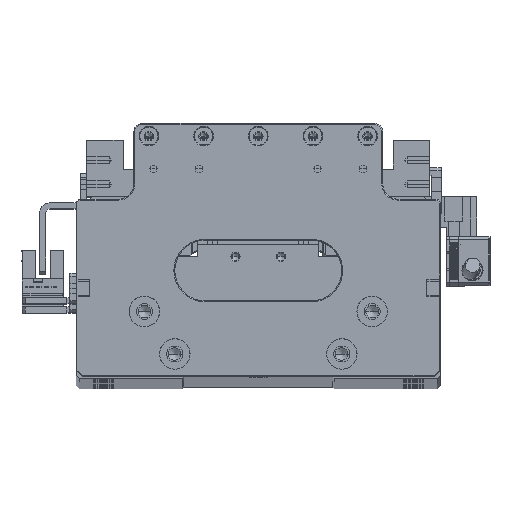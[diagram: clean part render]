
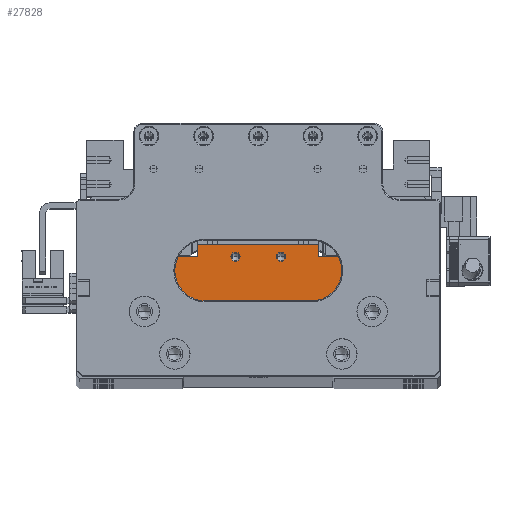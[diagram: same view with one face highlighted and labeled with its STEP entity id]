
A CAD part, top view. The second image highlights one B-rep face of the part: STEP entity #27828.
In plain terms, the highlighted planar face has unit normal (0, 0, 1).
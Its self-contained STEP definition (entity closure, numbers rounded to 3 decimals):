
#475 = LINE ( 'NONE', #105958, #49648 ) ;
#3552 = VERTEX_POINT ( 'NONE', #22573 ) ;
#4236 = DIRECTION ( 'NONE',  ( 1., 0., 0. ) ) ;
#6319 = CARTESIAN_POINT ( 'NONE',  ( -20., 29.7, 83.854 ) ) ;
#6692 = EDGE_CURVE ( 'NONE', #120251, #120276, #61488, .T. ) ;
#9310 = DIRECTION ( 'NONE',  ( 1., 0., 0. ) ) ;
#9952 = VECTOR ( 'NONE', #113568, 1000. ) ;
#10341 = CARTESIAN_POINT ( 'NONE',  ( -7.5, 6.5, 83.854 ) ) ;
#11133 = DIRECTION ( 'NONE',  ( 0., 1., 0. ) ) ;
#11172 = VECTOR ( 'NONE', #30394, 1000. ) ;
#11843 = CARTESIAN_POINT ( 'NONE',  ( 7.5, 25.8, 83.854 ) ) ;
#12301 = EDGE_CURVE ( 'NONE', #63460, #43991, #111431, .T. ) ;
#13370 = EDGE_CURVE ( 'NONE', #88986, #50955, #112771, .T. ) ;
#14360 = CARTESIAN_POINT ( 'NONE',  ( -5.975, 25.8, 83.854 ) ) ;
#16931 = CARTESIAN_POINT ( 'NONE',  ( -7.5, 29.7, 83.854 ) ) ;
#18659 = FACE_BOUND ( 'NONE', #106255, .T. ) ;
#19512 = CARTESIAN_POINT ( 'NONE',  ( 29.9, 25.7, 83.854 ) ) ;
#21730 = DIRECTION ( 'NONE',  ( 1., 0., 0. ) ) ;
#22011 = CARTESIAN_POINT ( 'NONE',  ( 29.9, 6.5, 83.854 ) ) ;
#22390 = VERTEX_POINT ( 'NONE', #19512 ) ;
#22573 = CARTESIAN_POINT ( 'NONE',  ( 20., 25.7, 83.854 ) ) ;
#22712 = LINE ( 'NONE', #115364, #114972 ) ;
#23479 = DIRECTION ( 'NONE',  ( 0., 0., 1. ) ) ;
#23849 = EDGE_LOOP ( 'NONE', ( #66371, #115224, #111600, #98391, #40106, #92582, #95271, #44171 ) ) ;
#27828 = ADVANCED_FACE ( 'NONE', ( #70841, #93917, #18659 ), #58918, .F. ) ;
#29759 = CARTESIAN_POINT ( 'NONE',  ( -7.5, 18.2, 83.854 ) ) ;
#30303 = VERTEX_POINT ( 'NONE', #22011 ) ;
#30394 = DIRECTION ( 'NONE',  ( 1., 0., 0. ) ) ;
#31240 = EDGE_LOOP ( 'NONE', ( #75874, #98152 ) ) ;
#34187 = AXIS2_PLACEMENT_3D ( 'NONE', #11843, #80567, #21730 ) ;
#37288 = LINE ( 'NONE', #98673, #11172 ) ;
#40106 = ORIENTED_EDGE ( 'NONE', *, *, #58969, .F. ) ;
#43275 = EDGE_CURVE ( 'NONE', #120276, #120251, #82447, .T. ) ;
#43943 = EDGE_CURVE ( 'NONE', #96337, #3552, #105458, .T. ) ;
#43991 = VERTEX_POINT ( 'NONE', #81699 ) ;
#43993 = LINE ( 'NONE', #10341, #96281 ) ;
#44171 = ORIENTED_EDGE ( 'NONE', *, *, #105069, .F. ) ;
#44745 = VERTEX_POINT ( 'NONE', #6319 ) ;
#49468 = DIRECTION ( 'NONE',  ( -1., 0., 0. ) ) ;
#49648 = VECTOR ( 'NONE', #115871, 1000. ) ;
#50955 = VERTEX_POINT ( 'NONE', #100327 ) ;
#54627 = CARTESIAN_POINT ( 'NONE',  ( -29.9, 18.2, 83.854 ) ) ;
#55685 = ORIENTED_EDGE ( 'NONE', *, *, #43275, .F. ) ;
#55955 = CARTESIAN_POINT ( 'NONE',  ( 20., 29.7, 83.854 ) ) ;
#58918 = PLANE ( 'NONE',  #101966 ) ;
#58969 = EDGE_CURVE ( 'NONE', #3552, #22390, #22712, .T. ) ;
#61488 = CIRCLE ( 'NONE', #97382, 1.525 ) ;
#63068 = DIRECTION ( 'NONE',  ( 0., 0., 1. ) ) ;
#63460 = VERTEX_POINT ( 'NONE', #120587 ) ;
#66371 = ORIENTED_EDGE ( 'NONE', *, *, #68554, .F. ) ;
#67838 = AXIS2_PLACEMENT_3D ( 'NONE', #82318, #23479, #92191 ) ;
#68092 = DIRECTION ( 'NONE',  ( 0., 0., 1. ) ) ;
#68554 = EDGE_CURVE ( 'NONE', #43991, #91260, #37288, .T. ) ;
#70841 = FACE_OUTER_BOUND ( 'NONE', #23849, .T. ) ;
#75742 = DIRECTION ( 'NONE',  ( 1., 0., 0. ) ) ;
#75874 = ORIENTED_EDGE ( 'NONE', *, *, #13370, .F. ) ;
#76167 = VECTOR ( 'NONE', #110559, 1000. ) ;
#76994 = CIRCLE ( 'NONE', #67838, 1.525 ) ;
#79050 = DIRECTION ( 'NONE',  ( 1., 0., 0. ) ) ;
#79831 = CARTESIAN_POINT ( 'NONE',  ( -20., 18.2, 83.854 ) ) ;
#80567 = DIRECTION ( 'NONE',  ( 0., 0., 1. ) ) ;
#81699 = CARTESIAN_POINT ( 'NONE',  ( -29.9, 25.7, 83.854 ) ) ;
#82318 = CARTESIAN_POINT ( 'NONE',  ( 7.5, 25.8, 83.854 ) ) ;
#82447 = CIRCLE ( 'NONE', #92364, 1.525 ) ;
#85293 = CARTESIAN_POINT ( 'NONE',  ( -20., 25.7, 83.854 ) ) ;
#85736 = EDGE_CURVE ( 'NONE', #63460, #30303, #43993, .T. ) ;
#88661 = LINE ( 'NONE', #79831, #111745 ) ;
#88986 = VERTEX_POINT ( 'NONE', #90444 ) ;
#90444 = CARTESIAN_POINT ( 'NONE',  ( 9.025, 25.8, 83.854 ) ) ;
#90742 = CARTESIAN_POINT ( 'NONE',  ( 20., 18.2, 83.854 ) ) ;
#91260 = VERTEX_POINT ( 'NONE', #85293 ) ;
#92191 = DIRECTION ( 'NONE',  ( 1., 0., 0. ) ) ;
#92364 = AXIS2_PLACEMENT_3D ( 'NONE', #127136, #68092, #9310 ) ;
#92582 = ORIENTED_EDGE ( 'NONE', *, *, #43943, .F. ) ;
#93917 = FACE_BOUND ( 'NONE', #31240, .T. ) ;
#95271 = ORIENTED_EDGE ( 'NONE', *, *, #120451, .F. ) ;
#95617 = VECTOR ( 'NONE', #114925, 1000. ) ;
#96281 = VECTOR ( 'NONE', #79050, 1000. ) ;
#96337 = VERTEX_POINT ( 'NONE', #55955 ) ;
#97382 = AXIS2_PLACEMENT_3D ( 'NONE', #122059, #63068, #4236 ) ;
#98152 = ORIENTED_EDGE ( 'NONE', *, *, #100527, .F. ) ;
#98391 = ORIENTED_EDGE ( 'NONE', *, *, #125545, .F. ) ;
#98673 = CARTESIAN_POINT ( 'NONE',  ( -7.5, 25.7, 83.854 ) ) ;
#100327 = CARTESIAN_POINT ( 'NONE',  ( 5.975, 25.8, 83.854 ) ) ;
#100527 = EDGE_CURVE ( 'NONE', #50955, #88986, #76994, .T. ) ;
#101966 = AXIS2_PLACEMENT_3D ( 'NONE', #29759, #108413, #49468 ) ;
#102451 = CARTESIAN_POINT ( 'NONE',  ( -9.025, 25.8, 83.854 ) ) ;
#105069 = EDGE_CURVE ( 'NONE', #91260, #44745, #88661, .T. ) ;
#105458 = LINE ( 'NONE', #90742, #76167 ) ;
#105958 = CARTESIAN_POINT ( 'NONE',  ( 29.9, 18.2, 83.854 ) ) ;
#106255 = EDGE_LOOP ( 'NONE', ( #55685, #114463 ) ) ;
#108413 = DIRECTION ( 'NONE',  ( 0., 0., -1. ) ) ;
#110559 = DIRECTION ( 'NONE',  ( 0., -1., 0. ) ) ;
#111431 = LINE ( 'NONE', #54627, #9952 ) ;
#111600 = ORIENTED_EDGE ( 'NONE', *, *, #85736, .T. ) ;
#111745 = VECTOR ( 'NONE', #11133, 1000. ) ;
#112771 = CIRCLE ( 'NONE', #34187, 1.525 ) ;
#113568 = DIRECTION ( 'NONE',  ( 0., 1., 0. ) ) ;
#114463 = ORIENTED_EDGE ( 'NONE', *, *, #6692, .F. ) ;
#114925 = DIRECTION ( 'NONE',  ( 1., 0., 0. ) ) ;
#114972 = VECTOR ( 'NONE', #75742, 1000. ) ;
#115224 = ORIENTED_EDGE ( 'NONE', *, *, #12301, .F. ) ;
#115364 = CARTESIAN_POINT ( 'NONE',  ( -7.5, 25.7, 83.854 ) ) ;
#115871 = DIRECTION ( 'NONE',  ( 0., -1., 0. ) ) ;
#120251 = VERTEX_POINT ( 'NONE', #102451 ) ;
#120276 = VERTEX_POINT ( 'NONE', #14360 ) ;
#120451 = EDGE_CURVE ( 'NONE', #44745, #96337, #124938, .T. ) ;
#120587 = CARTESIAN_POINT ( 'NONE',  ( -29.9, 6.5, 83.854 ) ) ;
#122059 = CARTESIAN_POINT ( 'NONE',  ( -7.5, 25.8, 83.854 ) ) ;
#124938 = LINE ( 'NONE', #16931, #95617 ) ;
#125545 = EDGE_CURVE ( 'NONE', #22390, #30303, #475, .T. ) ;
#127136 = CARTESIAN_POINT ( 'NONE',  ( -7.5, 25.8, 83.854 ) ) ;
